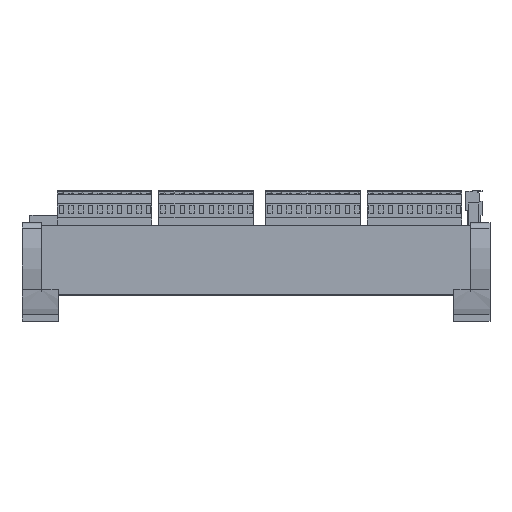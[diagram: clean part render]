
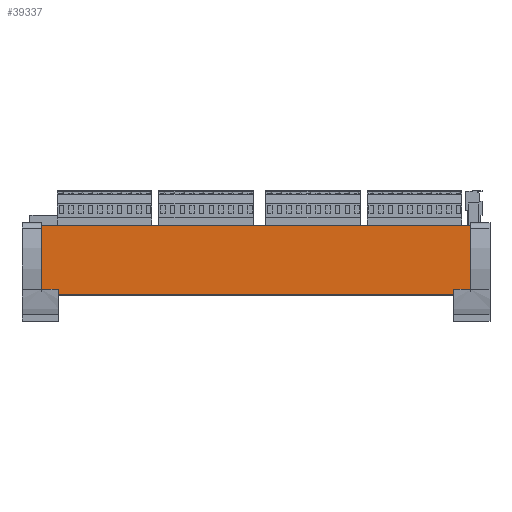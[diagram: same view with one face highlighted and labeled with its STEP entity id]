
A CAD part, top view. The second image highlights one B-rep face of the part: STEP entity #39337.
In plain terms, the highlighted planar face has unit normal (0, 0, 1).
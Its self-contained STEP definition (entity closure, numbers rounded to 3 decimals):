
#573 = VECTOR ( 'NONE', #5599, 1000. ) ;
#718 = EDGE_CURVE ( 'NONE', #36163, #4172, #34097, .T. ) ;
#1360 = CARTESIAN_POINT ( 'NONE',  ( 88.5, 0.036, 55.5 ) ) ;
#2296 = PLANE ( 'NONE',  #27946 ) ;
#4172 = VERTEX_POINT ( 'NONE', #1360 ) ;
#5058 = DIRECTION ( 'NONE',  ( 0., -1., 0. ) ) ;
#5599 = DIRECTION ( 'NONE',  ( 0., 1., 0. ) ) ;
#6005 = CARTESIAN_POINT ( 'NONE',  ( -88.5, 28.5, 55.5 ) ) ;
#6881 = EDGE_CURVE ( 'NONE', #37933, #4172, #21343, .T. ) ;
#6905 = ORIENTED_EDGE ( 'NONE', *, *, #6881, .F. ) ;
#10873 = CARTESIAN_POINT ( 'NONE',  ( -88.5, 28.6, 55.5 ) ) ;
#12576 = ORIENTED_EDGE ( 'NONE', *, *, #26718, .F. ) ;
#14951 = LINE ( 'NONE', #6005, #573 ) ;
#14952 = VECTOR ( 'NONE', #19924, 1000. ) ;
#15064 = CARTESIAN_POINT ( 'NONE',  ( -96.5, 28., 55.5 ) ) ;
#17080 = ORIENTED_EDGE ( 'NONE', *, *, #20508, .F. ) ;
#17177 = ORIENTED_EDGE ( 'NONE', *, *, #718, .T. ) ;
#17836 = DIRECTION ( 'NONE',  ( 0., 0., -1. ) ) ;
#18030 = FACE_OUTER_BOUND ( 'NONE', #26670, .T. ) ;
#19924 = DIRECTION ( 'NONE',  ( 1., 0., 0. ) ) ;
#20002 = CARTESIAN_POINT ( 'NONE',  ( -88.5, 0.036, 55.5 ) ) ;
#20508 = EDGE_CURVE ( 'NONE', #36163, #29585, #14951, .T. ) ;
#20996 = CARTESIAN_POINT ( 'NONE',  ( 88.5, 28.6, 55.5 ) ) ;
#21343 = LINE ( 'NONE', #24947, #33880 ) ;
#22885 = CARTESIAN_POINT ( 'NONE',  ( -96.5, 0.036, 55.5 ) ) ;
#24947 = CARTESIAN_POINT ( 'NONE',  ( 88.5, 28., 55.5 ) ) ;
#26670 = EDGE_LOOP ( 'NONE', ( #12576, #17080, #17177, #6905 ) ) ;
#26718 = EDGE_CURVE ( 'NONE', #29585, #37933, #40582, .T. ) ;
#27946 = AXIS2_PLACEMENT_3D ( 'NONE', #15064, #17836, #5058 ) ;
#29585 = VERTEX_POINT ( 'NONE', #10873 ) ;
#33880 = VECTOR ( 'NONE', #34947, 1000. ) ;
#34097 = LINE ( 'NONE', #22885, #14952 ) ;
#34947 = DIRECTION ( 'NONE',  ( 0., -1., 0. ) ) ;
#36163 = VERTEX_POINT ( 'NONE', #20002 ) ;
#37289 = VECTOR ( 'NONE', #40806, 1000. ) ;
#37628 = CARTESIAN_POINT ( 'NONE',  ( -93.217, 28.6, 55.5 ) ) ;
#37933 = VERTEX_POINT ( 'NONE', #20996 ) ;
#39337 = ADVANCED_FACE ( 'NONE', ( #18030 ), #2296, .F. ) ;
#40582 = LINE ( 'NONE', #37628, #37289 ) ;
#40806 = DIRECTION ( 'NONE',  ( 1., 0., 0. ) ) ;
